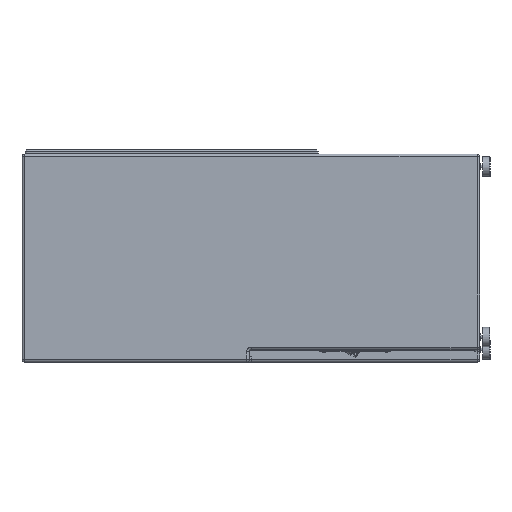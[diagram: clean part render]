
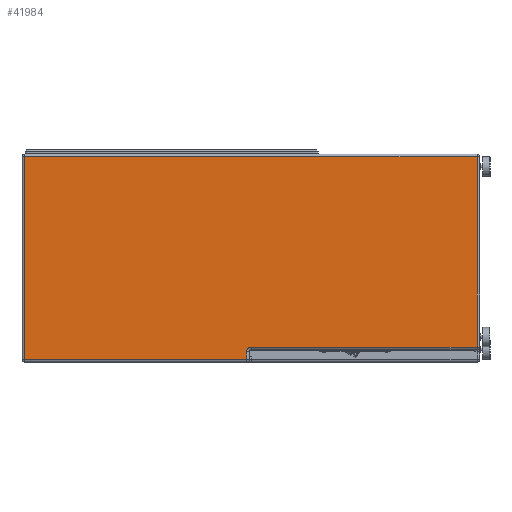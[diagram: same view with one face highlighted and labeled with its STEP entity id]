
A CAD part, left-side view. The second image highlights one B-rep face of the part: STEP entity #41984.
In plain terms, the highlighted planar face has unit normal (-1, 0, 0).
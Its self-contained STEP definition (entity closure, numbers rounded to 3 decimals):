
#1415=CIRCLE('',#44756,11.);
#2976=LINE('',#61029,#6609);
#2980=LINE('',#61056,#6613);
#2983=LINE('',#61060,#6616);
#3081=LINE('',#61357,#6714);
#3082=LINE('',#61359,#6715);
#3083=LINE('',#61360,#6716);
#6609=VECTOR('',#49439,10.);
#6613=VECTOR('',#49469,10.);
#6616=VECTOR('',#49474,10.);
#6714=VECTOR('',#49770,10.);
#6715=VECTOR('',#49771,1000.);
#6716=VECTOR('',#49772,1000.);
#10082=PLANE('',#44866);
#11421=FACE_OUTER_BOUND('',#13892,.T.);
#13892=EDGE_LOOP('',(#29217,#29218,#29219,#29220,#29221,#29222,#29223));
#17825=VERTEX_POINT('',#61020);
#17828=VERTEX_POINT('',#61027);
#17830=VERTEX_POINT('',#61033);
#17837=VERTEX_POINT('',#61050);
#17838=VERTEX_POINT('',#61054);
#17938=VERTEX_POINT('',#61356);
#17939=VERTEX_POINT('',#61358);
#22171=EDGE_CURVE('',#17828,#17825,#2976,.T.);
#22174=EDGE_CURVE('',#17830,#17828,#1415,.T.);
#22184=EDGE_CURVE('',#17838,#17837,#2980,.T.);
#22187=EDGE_CURVE('',#17837,#17830,#2983,.T.);
#22337=EDGE_CURVE('',#17938,#17838,#3081,.T.);
#22338=EDGE_CURVE('',#17938,#17939,#3082,.T.);
#22339=EDGE_CURVE('',#17939,#17825,#3083,.T.);
#29217=ORIENTED_EDGE('',*,*,#22337,.F.);
#29218=ORIENTED_EDGE('',*,*,#22338,.T.);
#29219=ORIENTED_EDGE('',*,*,#22339,.T.);
#29220=ORIENTED_EDGE('',*,*,#22171,.F.);
#29221=ORIENTED_EDGE('',*,*,#22174,.F.);
#29222=ORIENTED_EDGE('',*,*,#22187,.F.);
#29223=ORIENTED_EDGE('',*,*,#22184,.F.);
#41984=ADVANCED_FACE('',(#11421),#10082,.T.);
#44756=AXIS2_PLACEMENT_3D('',#61035,#49445,#49446);
#44866=AXIS2_PLACEMENT_3D('',#61355,#49768,#49769);
#49439=DIRECTION('',(0.,0.,-1.));
#49445=DIRECTION('center_axis',(-1.,0.,0.));
#49446=DIRECTION('ref_axis',(0.,0.707,0.707));
#49469=DIRECTION('',(0.,0.,-1.));
#49474=DIRECTION('',(0.,1.,0.));
#49768=DIRECTION('center_axis',(-1.,0.,0.));
#49769=DIRECTION('ref_axis',(0.,-1.,0.));
#49770=DIRECTION('',(0.,-1.,0.));
#49771=DIRECTION('',(0.,0.,-1.));
#49772=DIRECTION('',(0.,-1.,0.));
#61020=CARTESIAN_POINT('',(-300.,10.,-244.));
#61027=CARTESIAN_POINT('',(-300.,10.,-225.));
#61029=CARTESIAN_POINT('',(-300.,10.,-135.));
#61033=CARTESIAN_POINT('',(-300.,-1.,-214.));
#61035=CARTESIAN_POINT('Origin',(-300.,-1.,-225.));
#61050=CARTESIAN_POINT('',(-300.,-544.,-214.));
#61054=CARTESIAN_POINT('',(-300.,-544.,244.));
#61056=CARTESIAN_POINT('',(-300.,-544.,-135.));
#61060=CARTESIAN_POINT('',(-300.,66.,-214.));
#61355=CARTESIAN_POINT('Origin',(-300.,538.,232.));
#61356=CARTESIAN_POINT('',(-300.,544.,244.));
#61357=CARTESIAN_POINT('',(-300.,-532.,244.));
#61358=CARTESIAN_POINT('',(-300.,544.,-244.));
#61359=CARTESIAN_POINT('',(-300.,544.,-250.));
#61360=CARTESIAN_POINT('',(-300.,532.,-244.));
